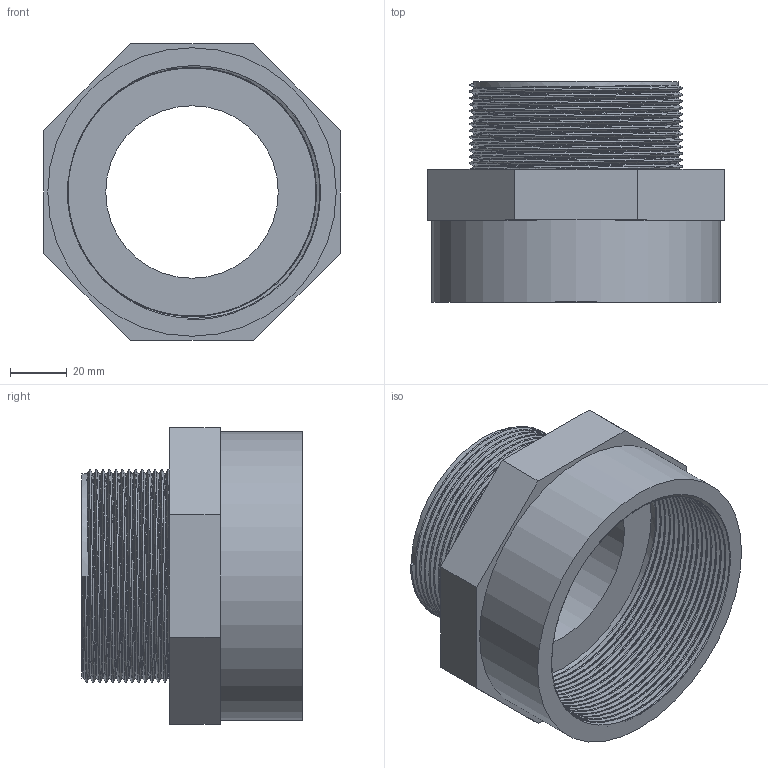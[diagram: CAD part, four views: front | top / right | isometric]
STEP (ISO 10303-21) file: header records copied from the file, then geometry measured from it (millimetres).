
FILE_DESCRIPTION(/* description */ ('PVC riduzione filettata BSP femmina-maschio (maggioratore filettato BSP M-F)'),/* implementation_level */ '2;1');
FILE_NAME(/* name */ 'C:\Users\POLYPIPE\Desktop\DATASET INVENTOR\LIBRERIA EFFAST\RACCORDI 3DxWEB\RER\3D_RERMGE\3D_RERMGE075I.stp',/* time_stamp */ '2018-01-19T16:40:35+01:00',/* author */ ('POLYPIPE'),/* organization */ ('Polypipe Italia s.r.l.'),/* preprocessor_version */ 'ST-DEVELOPER v16.1',/* originating_system */ 'Autodesk Inventor 2016',/* authorisation */ '');
FILE_SCHEMA (('CONFIG_CONTROL_DESIGN'));
Length unit declared in the file: millimetre
Products named in the file (1): 3D_RERMGE
Bounding box: 105 x 78 x 105 mm (x, y, z)
Volume: 178081.7 mm3; surface area: 65387.6 mm2
Topology: 1 solids, 1 shells, 29 faces, 69 edges, 45 vertices
Faces by surface type: plane 15, bspline 10, cylinder 4
Full cylindrical faces by diameter (mm): 61 x1, 72.226 x1, 87.884 x1, 102 x1
Entity records: 11681 total; most frequent: CARTESIAN_POINT 11066, ORIENTED_EDGE 128, DIRECTION 94, EDGE_CURVE 64, VERTEX_POINT 43, EDGE_LOOP 37, AXIS2_PLACEMENT_3D 32, LINE 30
